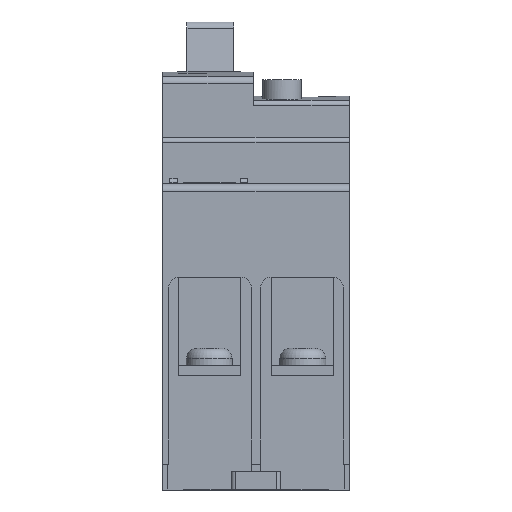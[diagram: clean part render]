
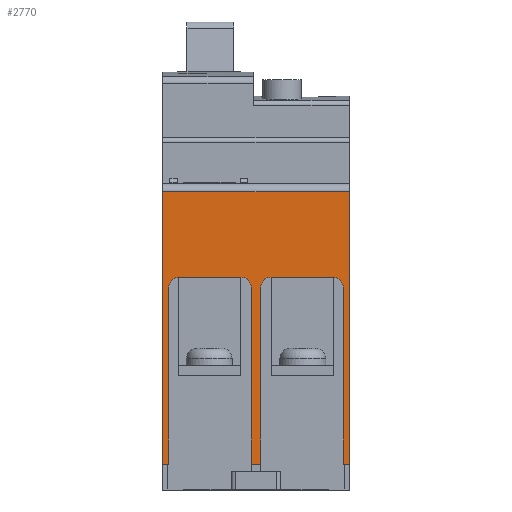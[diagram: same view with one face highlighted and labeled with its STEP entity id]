
A CAD part, front view. The second image highlights one B-rep face of the part: STEP entity #2770.
In plain terms, the highlighted planar face has unit normal (0, -1, 0) as drawn and (0, 1, 0) by its records, which use the part's own axes.
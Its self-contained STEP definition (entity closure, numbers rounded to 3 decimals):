
#3 = DIRECTION ( 'NONE',  ( 0., 0., -1. ) ) ;
#104 = DIRECTION ( 'NONE',  ( 0., 0., -1. ) ) ;
#182 = CARTESIAN_POINT ( 'NONE',  ( 0.9, 0., -34. ) ) ;
#284 = EDGE_CURVE ( 'NONE', #5203, #4833, #2418, .T. ) ;
#348 = CARTESIAN_POINT ( 'NONE',  ( -0.9, 0., 0. ) ) ;
#365 = LINE ( 'NONE', #8733, #6022 ) ;
#372 = EDGE_CURVE ( 'NONE', #1045, #1170, #4607, .T. ) ;
#391 = CARTESIAN_POINT ( 'NONE',  ( 16.8, 0., -34. ) ) ;
#416 = EDGE_CURVE ( 'NONE', #2095, #8177, #4385, .T. ) ;
#482 = DIRECTION ( 'NONE',  ( 0., 0., -1. ) ) ;
#555 = EDGE_CURVE ( 'NONE', #1920, #5203, #3028, .T. ) ;
#600 = CARTESIAN_POINT ( 'NONE',  ( -16.8, 0., 0. ) ) ;
#677 = CIRCLE ( 'NONE', #5161, 2. ) ;
#748 = CARTESIAN_POINT ( 'NONE',  ( 18., 0., 0. ) ) ;
#750 = EDGE_CURVE ( 'NONE', #2401, #1182, #677, .T. ) ;
#787 = CIRCLE ( 'NONE', #5397, 2. ) ;
#965 = DIRECTION ( 'NONE',  ( 0., 1., 0. ) ) ;
#970 = AXIS2_PLACEMENT_3D ( 'NONE', #8866, #7909, #6967 ) ;
#1035 = ORIENTED_EDGE ( 'NONE', *, *, #416, .F. ) ;
#1045 = VERTEX_POINT ( 'NONE', #2465 ) ;
#1067 = DIRECTION ( 'NONE',  ( 0., -1., 0. ) ) ;
#1106 = DIRECTION ( 'NONE',  ( 1., 0., 0. ) ) ;
#1165 = EDGE_CURVE ( 'NONE', #1182, #5679, #365, .T. ) ;
#1170 = VERTEX_POINT ( 'NONE', #6841 ) ;
#1182 = VERTEX_POINT ( 'NONE', #2068 ) ;
#1251 = CARTESIAN_POINT ( 'NONE',  ( 2.9, 0., -36. ) ) ;
#1289 = VECTOR ( 'NONE', #1755, 1000. ) ;
#1387 = FACE_OUTER_BOUND ( 'NONE', #4250, .T. ) ;
#1433 = ORIENTED_EDGE ( 'NONE', *, *, #372, .F. ) ;
#1455 = CARTESIAN_POINT ( 'NONE',  ( 18., 0., 0. ) ) ;
#1570 = AXIS2_PLACEMENT_3D ( 'NONE', #1935, #965, #3 ) ;
#1578 = LINE ( 'NONE', #600, #9208 ) ;
#1663 = CIRCLE ( 'NONE', #970, 2. ) ;
#1746 = LINE ( 'NONE', #7230, #6948 ) ;
#1755 = DIRECTION ( 'NONE',  ( -1., 0., 0. ) ) ;
#1756 = CARTESIAN_POINT ( 'NONE',  ( -2.9, 0., -34. ) ) ;
#1920 = VERTEX_POINT ( 'NONE', #8714 ) ;
#1935 = CARTESIAN_POINT ( 'NONE',  ( -14.8, 0., -34. ) ) ;
#2030 = CARTESIAN_POINT ( 'NONE',  ( -18., 0., 0. ) ) ;
#2033 = EDGE_CURVE ( 'NONE', #9007, #5997, #2101, .T. ) ;
#2068 = CARTESIAN_POINT ( 'NONE',  ( 14.8, 0., -36. ) ) ;
#2073 = CARTESIAN_POINT ( 'NONE',  ( -18., 0., 0. ) ) ;
#2095 = VERTEX_POINT ( 'NONE', #7868 ) ;
#2101 = LINE ( 'NONE', #182, #6316 ) ;
#2140 = EDGE_CURVE ( 'NONE', #1170, #7656, #2175, .T. ) ;
#2175 = CIRCLE ( 'NONE', #1570, 2. ) ;
#2186 = VECTOR ( 'NONE', #482, 1000. ) ;
#2401 = VERTEX_POINT ( 'NONE', #391 ) ;
#2418 = LINE ( 'NONE', #1455, #2186 ) ;
#2441 = ORIENTED_EDGE ( 'NONE', *, *, #3023, .T. ) ;
#2465 = CARTESIAN_POINT ( 'NONE',  ( -2.9, 0., -36. ) ) ;
#2691 = CARTESIAN_POINT ( 'NONE',  ( -14.8, 0., -36. ) ) ;
#2717 = ORIENTED_EDGE ( 'NONE', *, *, #1165, .F. ) ;
#2770 = ADVANCED_FACE ( 'NONE', ( #1387 ), #2986, .F. ) ;
#2986 = PLANE ( 'NONE',  #3084 ) ;
#3023 = EDGE_CURVE ( 'NONE', #2095, #4259, #3376, .T. ) ;
#3028 = LINE ( 'NONE', #2073, #4746 ) ;
#3084 = AXIS2_PLACEMENT_3D ( 'NONE', #2030, #1067, #104 ) ;
#3202 = EDGE_CURVE ( 'NONE', #7656, #4259, #1578, .T. ) ;
#3354 = ORIENTED_EDGE ( 'NONE', *, *, #2140, .F. ) ;
#3376 = LINE ( 'NONE', #6963, #8423 ) ;
#3523 = ORIENTED_EDGE ( 'NONE', *, *, #7190, .F. ) ;
#3724 = VECTOR ( 'NONE', #7958, 1000. ) ;
#3729 = CARTESIAN_POINT ( 'NONE',  ( -16.8, 0., 0. ) ) ;
#3886 = DIRECTION ( 'NONE',  ( 0., 0., -1. ) ) ;
#4250 = EDGE_LOOP ( 'NONE', ( #4652, #9155, #8045, #5131, #3523, #1035, #2441, #4814, #3354, #1433, #8329, #7869, #6614, #7541, #7576, #2717 ) ) ;
#4259 = VERTEX_POINT ( 'NONE', #3729 ) ;
#4385 = LINE ( 'NONE', #8915, #3724 ) ;
#4467 = CARTESIAN_POINT ( 'NONE',  ( -0.9, 0., -34. ) ) ;
#4514 = CARTESIAN_POINT ( 'NONE',  ( 0.9, 0., -34. ) ) ;
#4524 = EDGE_CURVE ( 'NONE', #7931, #1045, #787, .T. ) ;
#4607 = LINE ( 'NONE', #2691, #1289 ) ;
#4652 = ORIENTED_EDGE ( 'NONE', *, *, #750, .F. ) ;
#4729 = DIRECTION ( 'NONE',  ( 0., 0., -1. ) ) ;
#4746 = VECTOR ( 'NONE', #1106, 1000. ) ;
#4814 = ORIENTED_EDGE ( 'NONE', *, *, #3202, .F. ) ;
#4817 = DIRECTION ( 'NONE',  ( 0., 1., 0. ) ) ;
#4833 = VERTEX_POINT ( 'NONE', #5729 ) ;
#4872 = VECTOR ( 'NONE', #4729, 1000. ) ;
#4942 = EDGE_CURVE ( 'NONE', #5778, #7931, #1746, .T. ) ;
#5131 = ORIENTED_EDGE ( 'NONE', *, *, #284, .T. ) ;
#5161 = AXIS2_PLACEMENT_3D ( 'NONE', #5779, #4817, #3886 ) ;
#5203 = VERTEX_POINT ( 'NONE', #748 ) ;
#5397 = AXIS2_PLACEMENT_3D ( 'NONE', #1756, #9141, #8198 ) ;
#5483 = CARTESIAN_POINT ( 'NONE',  ( -16.8, 0., -34. ) ) ;
#5546 = DIRECTION ( 'NONE',  ( 1., 0., 0. ) ) ;
#5679 = VERTEX_POINT ( 'NONE', #1251 ) ;
#5694 = CARTESIAN_POINT ( 'NONE',  ( 16.8, 0., -34. ) ) ;
#5729 = CARTESIAN_POINT ( 'NONE',  ( 18., 0., -52.5 ) ) ;
#5778 = VERTEX_POINT ( 'NONE', #348 ) ;
#5779 = CARTESIAN_POINT ( 'NONE',  ( 14.8, 0., -34. ) ) ;
#5842 = VECTOR ( 'NONE', #5546, 1000. ) ;
#5943 = DIRECTION ( 'NONE',  ( 1., 0., 0. ) ) ;
#5997 = VERTEX_POINT ( 'NONE', #7642 ) ;
#6022 = VECTOR ( 'NONE', #7778, 1000. ) ;
#6028 = DIRECTION ( 'NONE',  ( 1., 0., 0. ) ) ;
#6280 = DIRECTION ( 'NONE',  ( 0., 0., -1. ) ) ;
#6316 = VECTOR ( 'NONE', #8542, 1000. ) ;
#6489 = CARTESIAN_POINT ( 'NONE',  ( -18., 0., 0. ) ) ;
#6526 = CARTESIAN_POINT ( 'NONE',  ( -18., 0., -52.5 ) ) ;
#6614 = ORIENTED_EDGE ( 'NONE', *, *, #7332, .T. ) ;
#6644 = LINE ( 'NONE', #5694, #4872 ) ;
#6841 = CARTESIAN_POINT ( 'NONE',  ( -14.8, 0., -36. ) ) ;
#6884 = CARTESIAN_POINT ( 'NONE',  ( -18., 0., -52.5 ) ) ;
#6948 = VECTOR ( 'NONE', #6280, 1000. ) ;
#6963 = CARTESIAN_POINT ( 'NONE',  ( -18., 0., 0. ) ) ;
#6967 = DIRECTION ( 'NONE',  ( 0., 0., -1. ) ) ;
#7190 = EDGE_CURVE ( 'NONE', #8177, #4833, #7823, .T. ) ;
#7230 = CARTESIAN_POINT ( 'NONE',  ( -0.9, 0., 0. ) ) ;
#7332 = EDGE_CURVE ( 'NONE', #5778, #5997, #7440, .T. ) ;
#7440 = LINE ( 'NONE', #6489, #5842 ) ;
#7541 = ORIENTED_EDGE ( 'NONE', *, *, #2033, .F. ) ;
#7576 = ORIENTED_EDGE ( 'NONE', *, *, #9163, .F. ) ;
#7642 = CARTESIAN_POINT ( 'NONE',  ( 0.9, 0., 0. ) ) ;
#7656 = VERTEX_POINT ( 'NONE', #5483 ) ;
#7778 = DIRECTION ( 'NONE',  ( -1., 0., 0. ) ) ;
#7823 = LINE ( 'NONE', #6884, #7921 ) ;
#7868 = CARTESIAN_POINT ( 'NONE',  ( -18., 0., 0. ) ) ;
#7869 = ORIENTED_EDGE ( 'NONE', *, *, #4942, .F. ) ;
#7909 = DIRECTION ( 'NONE',  ( 0., 1., 0. ) ) ;
#7921 = VECTOR ( 'NONE', #5943, 1000. ) ;
#7931 = VERTEX_POINT ( 'NONE', #4467 ) ;
#7958 = DIRECTION ( 'NONE',  ( 0., 0., -1. ) ) ;
#7986 = EDGE_CURVE ( 'NONE', #1920, #2401, #6644, .T. ) ;
#8045 = ORIENTED_EDGE ( 'NONE', *, *, #555, .T. ) ;
#8177 = VERTEX_POINT ( 'NONE', #6526 ) ;
#8198 = DIRECTION ( 'NONE',  ( 0., 0., -1. ) ) ;
#8329 = ORIENTED_EDGE ( 'NONE', *, *, #4524, .F. ) ;
#8423 = VECTOR ( 'NONE', #6028, 1000. ) ;
#8542 = DIRECTION ( 'NONE',  ( 0., 0., 1. ) ) ;
#8714 = CARTESIAN_POINT ( 'NONE',  ( 16.8, 0., 0. ) ) ;
#8733 = CARTESIAN_POINT ( 'NONE',  ( 2.9, 0., -36. ) ) ;
#8866 = CARTESIAN_POINT ( 'NONE',  ( 2.9, 0., -34. ) ) ;
#8915 = CARTESIAN_POINT ( 'NONE',  ( -18., 0., 0. ) ) ;
#8975 = DIRECTION ( 'NONE',  ( 0., 0., 1. ) ) ;
#9007 = VERTEX_POINT ( 'NONE', #4514 ) ;
#9141 = DIRECTION ( 'NONE',  ( 0., 1., 0. ) ) ;
#9155 = ORIENTED_EDGE ( 'NONE', *, *, #7986, .F. ) ;
#9163 = EDGE_CURVE ( 'NONE', #5679, #9007, #1663, .T. ) ;
#9208 = VECTOR ( 'NONE', #8975, 1000. ) ;
